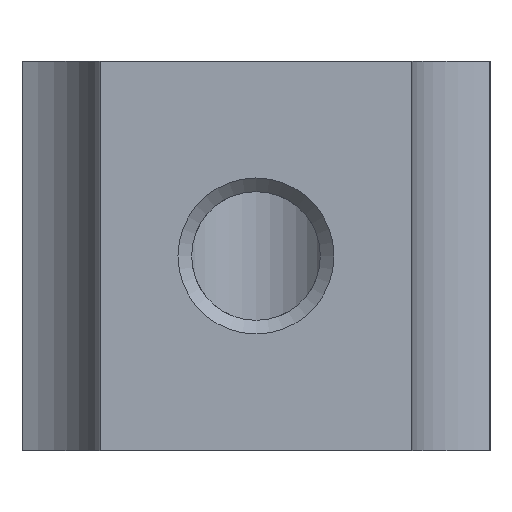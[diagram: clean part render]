
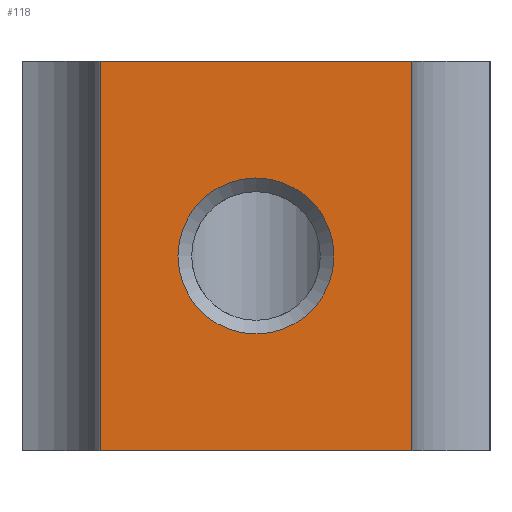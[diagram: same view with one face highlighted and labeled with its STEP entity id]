
A CAD part, left-side view. The second image highlights one B-rep face of the part: STEP entity #118.
In plain terms, the highlighted planar face has unit normal (-1, 0, 0).
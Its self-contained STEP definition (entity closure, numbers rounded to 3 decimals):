
#70=FACE_BOUND('',#186,.T.);
#71=FACE_BOUND('',#187,.T.);
#102=CIRCLE('',#589,2.);
#118=ADVANCED_FACE('',(#70,#71),#144,.T.);
#144=PLANE('',#590);
#186=EDGE_LOOP('',(#290));
#187=EDGE_LOOP('',(#291,#292,#293,#294));
#290=ORIENTED_EDGE('',*,*,#460,.T.);
#291=ORIENTED_EDGE('',*,*,#455,.T.);
#292=ORIENTED_EDGE('',*,*,#444,.T.);
#293=ORIENTED_EDGE('',*,*,#405,.T.);
#294=ORIENTED_EDGE('',*,*,#431,.F.);
#352=VERTEX_POINT('',#770);
#355=VERTEX_POINT('',#775);
#377=VERTEX_POINT('',#826);
#386=VERTEX_POINT('',#852);
#394=VERTEX_POINT('',#1013);
#405=EDGE_CURVE('',#352,#355,#475,.T.);
#431=EDGE_CURVE('',#377,#355,#491,.T.);
#444=EDGE_CURVE('',#386,#352,#499,.T.);
#455=EDGE_CURVE('',#377,#386,#505,.T.);
#460=EDGE_CURVE('',#394,#394,#102,.T.);
#475=LINE('',#776,#519);
#491=LINE('',#827,#535);
#499=LINE('',#851,#543);
#505=LINE('',#869,#549);
#519=VECTOR('',#620,1.);
#535=VECTOR('',#662,1.);
#543=VECTOR('',#686,1.);
#549=VECTOR('',#704,1.);
#589=AXIS2_PLACEMENT_3D('',#1012,#715,#716);
#590=AXIS2_PLACEMENT_3D('',#1014,#717,#718);
#620=DIRECTION('',(0.,0.,1.));
#662=DIRECTION('',(0.,-1.,0.));
#686=DIRECTION('',(0.,-1.,0.));
#704=DIRECTION('',(0.,0.,-1.));
#715=DIRECTION('',(1.,0.,0.));
#716=DIRECTION('',(0.,0.,1.));
#717=DIRECTION('',(-1.,0.,0.));
#718=DIRECTION('',(0.,-1.,0.));
#770=CARTESIAN_POINT('',(-35.355,135.636,79.249));
#775=CARTESIAN_POINT('',(-35.355,135.636,89.249));
#776=CARTESIAN_POINT('',(-35.355,135.636,87.249));
#826=CARTESIAN_POINT('',(-35.355,143.636,89.249));
#827=CARTESIAN_POINT('',(-35.355,139.636,89.249));
#851=CARTESIAN_POINT('',(-35.355,139.636,79.249));
#852=CARTESIAN_POINT('',(-35.355,143.636,79.249));
#869=CARTESIAN_POINT('',(-35.355,143.636,87.249));
#1012=CARTESIAN_POINT('',(-35.355,139.636,84.249));
#1013=CARTESIAN_POINT('',(-35.355,139.636,86.249));
#1014=CARTESIAN_POINT('',(-35.355,0.,0.));
